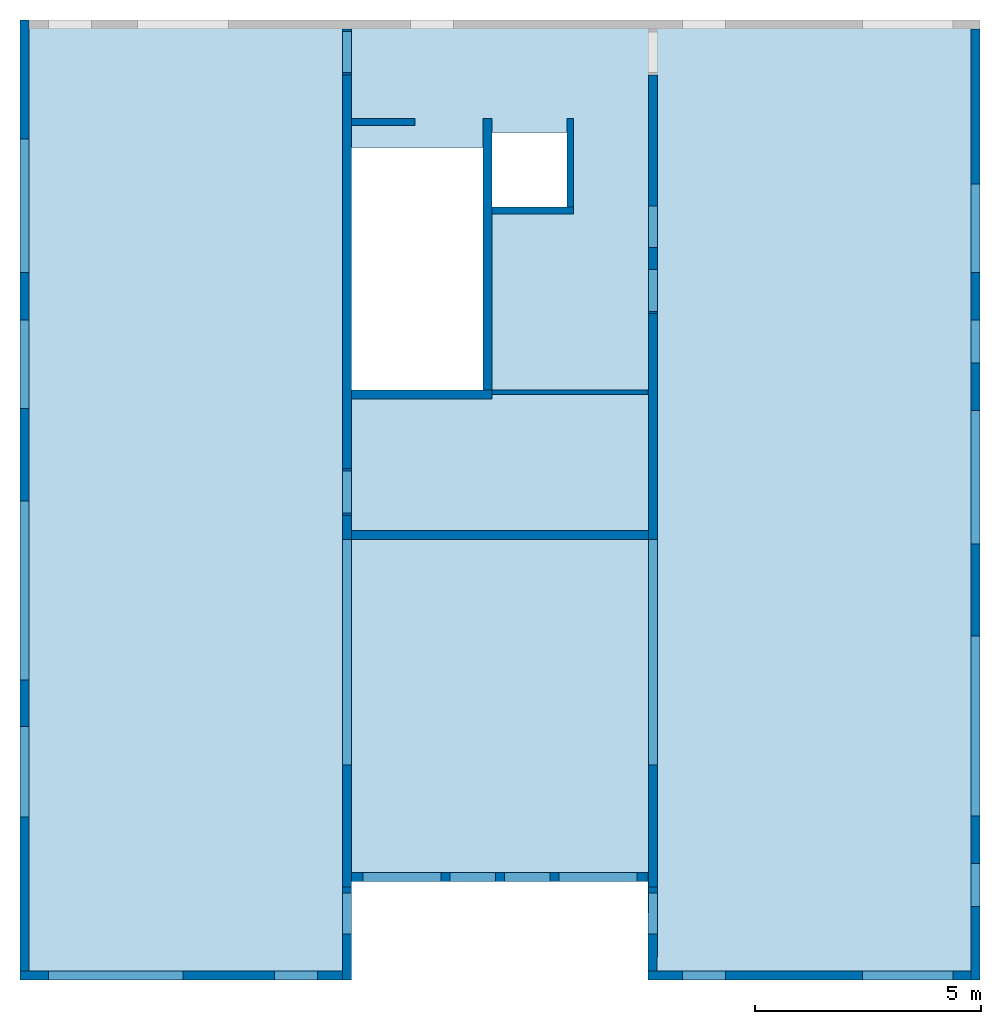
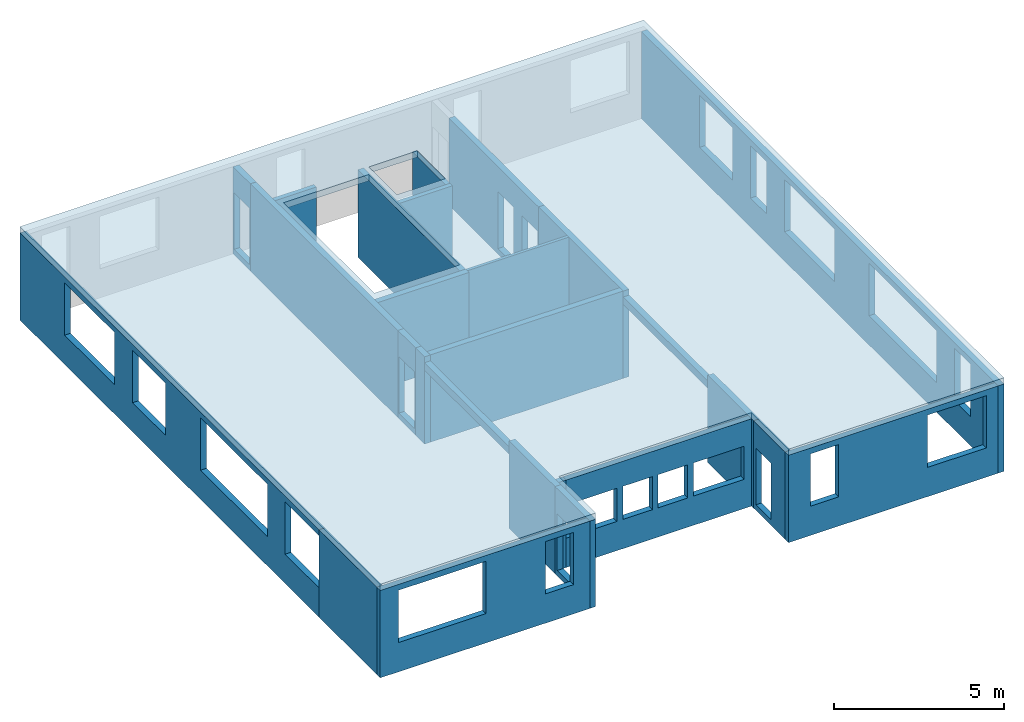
# One storey, part 1 of 2: 24 walls, 2 beams, 1 slab, 27 openings.
"""IFC2X3 building model written with IfcOpenShell, lengths in millimetres."""

from ifc_helpers import new_model, entity, si_unit, converted_unit, frame, frame_2d, origin, origin_with_axes, place, context, subcontext, project, spatial, polyline, rectangle, outline, extrude, faceted_brep, material, layer, layer_set, layer_usage, element, save


model = new_model("IFC2X3")

# Units and contexts
model_context = context("Model", 3, precision=1e-05, world=origin())
body_context = subcontext(model_context, "Body", "Model", "MODEL_VIEW")
ifc_project = project(units=[si_unit("LENGTHUNIT", "METRE", prefix="MILLI"), converted_unit("PLANEANGLEUNIT", "DEGREE", entity("IfcPlaneAngleMeasure", 0.0174532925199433), si_unit("PLANEANGLEUNIT", "RADIAN"), dimensions=[0, 0, 0, 0, 0, 0, 0]), si_unit("AREAUNIT", "SQUARE_METRE"), si_unit("VOLUMEUNIT", "CUBIC_METRE")], contexts=[model_context])

# Building, storey
building_placement = place(None, origin())
building = spatial("IfcBuilding", under=ifc_project, at=building_placement, Name="Bâtiment", CompositionType="ELEMENT")
storey_placement = place(building_placement, frame((0.0, 0.0, 11610.0), z_axis=(0.0, 0.0, 1.0), x_axis=(1.0, 0.0, 0.0)))
storey = spatial("IfcBuildingStorey", under=building, at=storey_placement, Name="3. Etage supérieur", CompositionType="ELEMENT", Elevation=11610.0)

# Beams
ifc_material_1 = material(Name="<Unnamed Material>")
beam_1_placement = place(storey_placement, frame((11832.25934853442, -27162.95646336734, 2460.0), z_axis=(0.0, 0.0, 1.0), x_axis=(0.0001049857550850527, 0.9999999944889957, 0.0)))
element("IfcBeam", 1, at=beam_1_placement, inside=storey, material=ifc_material_1, Name="<Unnamed Element>", context=body_context, shape_type="SweptSolid", body=[
    extrude(rectangle(XDim=270.0, YDim=200.0, at=frame_2d((135.0, -100.0), x_axis=(1.0, 0.0))), frame((0.0, 0.0, 0.0), z_axis=(1.0, 0.0, 0.0), x_axis=(0.0, 0.0, 1.0)), (0.0, 0.0, 1.0), 4978.489400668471),
])
ifc_material_2 = material(Name="<Unnamed Material>")
beam_2_placement = place(storey_placement, frame((5083.145609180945, -27162.95646336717, 2460.0), z_axis=(0.0, 0.0, 1.0), x_axis=(-0.0001049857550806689, 0.9999999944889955, 0.0)))
element("IfcBeam", 2, at=beam_2_placement, inside=storey, material=ifc_material_2, Name="<Unnamed Element>", context=body_context, shape_type="SweptSolid", body=[
    extrude(rectangle(XDim=270.0, YDim=199.9999999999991, at=frame_2d((135.0, -99.99999999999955), x_axis=(1.0, 0.0))), frame((0.0, 0.0, 0.0), z_axis=(1.0, 0.0, 0.0), x_axis=(0.0, 0.0, 1.0)), (0.0, 0.0, 1.0), 4978.489400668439),
])

# Slab, openings
ifc_material_3 = material(Name="<Unnamed Material>")
ifc_layer_1 = layer(ifc_material_3, 230.0)
ifc_layer_set_1 = layer_set([ifc_layer_1])
ifc_layer_usage_1 = layer_usage(ifc_layer_set_1, "AXIS3", "POSITIVE", 0.0)
slab_placement = place(storey_placement, frame((-2242.186712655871, -10713.57313399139, 2930.0), z_axis=(0.0, 0.0, 1.0), x_axis=(1.0, 0.0, 0.0)))
slab = element("IfcSlab", 3, at=slab_placement, inside=storey, material=ifc_layer_usage_1, Name="<Unnamed Element>", PredefinedType="FLOOR", context=body_context, shape_type="SweptSolid", body=[
    extrude(rectangle(XDim=21199.7794596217, YDim=21199.78053621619, at=frame_2d((10599.89026810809, -10599.88972981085), x_axis=(0.0, -0.9999999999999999))), origin_with_axes(), (0.0, 0.0, 1.0), 230.0),
])
opening_1_placement = place(slab_placement, frame((7324.370955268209, -8168.914292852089, 0.0), z_axis=(0.0, 0.0, 1.0), x_axis=(1.0, 0.0, 0.0)))
element("IfcOpeningElement", 4, at=opening_1_placement, cuts=slab, Name="Trémie dans dalle", ObjectType="Opening", context=body_context, shape_type="SweptSolid", body=[
    extrude(rectangle(XDim=2900.0, YDim=5350.0, at=frame_2d((1450.0, 2675.0), x_axis=(0.9999999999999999, 0.0))), origin_with_axes(), (0.0, 0.0, 1.0), 230.0),
])
opening_2_placement = place(slab_placement, frame((10423.20173598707, -2481.977777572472, 0.0), z_axis=(0.0, 0.0, 1.0), x_axis=(1.0, 0.0, 0.0)))
element("IfcOpeningElement", 5, at=opening_2_placement, cuts=slab, Name="Trémie dans dalle", ObjectType="Opening", context=body_context, shape_type="SweptSolid", body=[
    extrude(rectangle(XDim=1646.106911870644, YDim=1651.041602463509, at=frame_2d((825.5208012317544, -823.0534559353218), x_axis=(0.0, -1.0))), origin_with_axes(), (0.0, 0.0, 1.0), 230.0),
])
opening_3_placement = place(slab_placement, frame((7324.327891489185, -19029.63685337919, 0.0), z_axis=(0.0, 0.0, 1.0), x_axis=(1.0, 0.0, 0.0)))
element("IfcOpeningElement", 6, at=opening_3_placement, cuts=slab, Name="Trémie dans dalle", ObjectType="Opening", context=body_context, shape_type="SweptSolid", body=[
    extrude(rectangle(XDim=2170.142606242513, YDim=6547.479330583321, at=frame_2d((3273.739665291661, -1085.071303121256), x_axis=(0.0, -1.0))), origin_with_axes(), (0.0, 0.0, 1.0), 230.0),
])

# Wall, openings
ifc_material_4 = material(Name="<Unnamed Material>")
ifc_layer_2 = layer(ifc_material_4, 200.0)
ifc_layer_set_2 = layer_set([ifc_layer_2])
ifc_layer_usage_2 = layer_usage(ifc_layer_set_2, "AXIS2", "POSITIVE", -100.0)
wall_1_placement = place(storey_placement, frame((4882.1411788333, -31713.35259361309, -200.0), z_axis=(0.0, 0.0, 1.0), x_axis=(-1.0, 0.0, 0.0)))
wall_1 = element("IfcWallStandardCase", 7, at=wall_1_placement, inside=storey, material=ifc_layer_usage_2, Name="<Unnamed Element>", context=body_context, shape_type="SweptSolid", body=[
    extrude(rectangle(XDim=7124.327891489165, YDim=200.0, at=frame_2d((3562.163945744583, 100.0), x_axis=(1.0, 0.0))), origin_with_axes(), (0.0, 0.0, 1.0), 3139.999999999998),
])
opening_4_placement = place(wall_1_placement, frame((549.7445833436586, 0.0, 1050.0), z_axis=(0.0, 1.0, 0.0), x_axis=(0.0, 0.0, 1.0)))
element("IfcOpeningElement", 8, at=opening_4_placement, cuts=wall_1, Name="Baie de fenêtre", ObjectType="Opening", context=body_context, shape_type="SweptSolid", body=[
    extrude(rectangle(XDim=1880.0, YDim=950.0000000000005, at=frame_2d((940.0, 475.0000000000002), x_axis=(1.0, 0.0))), origin_with_axes(), (0.0, 0.0, 1.0), 200.0),
])
opening_5_placement = place(wall_1_placement, frame((3525.436756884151, 0.0, 1050.0), z_axis=(0.0, 1.0, 0.0), x_axis=(0.0, 0.0, 1.0)))
element("IfcOpeningElement", 9, at=opening_5_placement, cuts=wall_1, Name="Baie de fenêtre", ObjectType="Opening", context=body_context, shape_type="SweptSolid", body=[
    extrude(rectangle(XDim=1880.0, YDim=2975.0, at=frame_2d((940.0, 1487.5), x_axis=(1.0, 0.0))), origin_with_axes(), (0.0, 0.0, 1.0), 200.0),
])

# Wall, opening
ifc_material_5 = material(Name="<Unnamed Material>")
ifc_layer_3 = layer(ifc_material_5, 200.0)
ifc_layer_set_3 = layer_set([ifc_layer_3])
ifc_layer_usage_3 = layer_usage(ifc_layer_set_3, "AXIS2", "POSITIVE", -200.0)
wall_2_placement = place(storey_placement, frame((4882.141178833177, -29863.87900255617, -200.0), z_axis=(0.0, 0.0, 1.0), x_axis=(6.656548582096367e-14, -1.0, 0.0)))
wall_2 = element("IfcWallStandardCase", 10, at=wall_2_placement, inside=storey, material=ifc_layer_usage_3, Name="<Unnamed Element>", context=body_context, shape_type="SweptSolid", body=[
    extrude(rectangle(XDim=2049.473591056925, YDim=200.0, at=frame_2d((1024.736795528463, 100.0), x_axis=(1.0, 0.0))), origin_with_axes(), (0.0, 0.0, 1.0), 3139.999999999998),
])
opening_6_placement = place(wall_2_placement, frame((128.6892510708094, -3.586277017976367e-13, 200.0), z_axis=(0.0, 1.0, 0.0), x_axis=(0.0, 0.0, 1.0)))
element("IfcOpeningElement", 11, at=opening_6_placement, cuts=wall_2, Name="Porte-fenêtre", ObjectType="Opening", context=body_context, shape_type="SweptSolid", body=[
    extrude(rectangle(XDim=2040.0, YDim=900.0, at=frame_2d((1020.0, 450.0), x_axis=(1.0, 0.0))), origin_with_axes(), (0.0, 0.0, 1.0), 200.0),
])

# Wall
ifc_material_6 = material(Name="<Unnamed Material>")
ifc_layer_4 = layer(ifc_material_6, 200.0)
ifc_layer_set_4 = layer_set([ifc_layer_4])
ifc_layer_usage_4 = layer_usage(ifc_layer_set_4, "AXIS2", "POSITIVE", 0.0)
wall_3_placement = place(storey_placement, frame((4883.145609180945, -27162.95646336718, -200.0), z_axis=(0.0, 0.0, 1.0), x_axis=(4.579593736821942e-14, -0.9999999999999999, 0.0)))
element("IfcWallStandardCase", 12, at=wall_3_placement, inside=storey, material=ifc_layer_usage_4, Name="<Unnamed Element>", context=body_context, shape_type="SweptSolid", body=[
    extrude(outline(polyline([(0.0, 0.0), (2700.922539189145, -2.584939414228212e-26), (2700.922539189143, 200.0), (2580.25352400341, 200.0), (2580.25352400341, 198.9955696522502), (2380.25352400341, 198.9955696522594), (2380.25352400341, 200.0000000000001), (-1.754748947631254e-12, 200.0), (0.0, 0.0)])), origin_with_axes(), (0.0, 0.0, 1.0), 3139.999999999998),
])

# Wall, openings
ifc_material_7 = material(Name="<Unnamed Material>")
ifc_layer_5 = layer(ifc_material_7, 200.0)
ifc_layer_set_5 = layer_set([ifc_layer_5])
ifc_layer_usage_5 = layer_usage(ifc_layer_set_5, "AXIS2", "POSITIVE", 0.0)
wall_4_placement = place(storey_placement, frame((5331.908943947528, -29743.20998737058, -200.0), z_axis=(0.0, 0.0, 1.0), x_axis=(0.9999999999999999, 5.775220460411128e-16, 0.0)))
wall_4 = element("IfcWallStandardCase", 13, at=wall_4_placement, inside=storey, material=ifc_layer_usage_5, Name="<Unnamed Element>", context=body_context, shape_type="SweptSolid", body=[
    extrude(rectangle(XDim=6299.289926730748, YDim=200.0, at=frame_2d((3149.644963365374, 99.99999999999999), x_axis=(1.0, 0.0))), origin_with_axes(), (0.0, 0.0, 1.0), 3139.999999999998),
])
opening_7_placement = place(wall_4_placement, frame((0.07469816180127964, 0.0, 1050.0), z_axis=(0.0, 1.0, 0.0), x_axis=(0.0, 0.0, 1.0)))
element("IfcOpeningElement", 14, at=opening_7_placement, cuts=wall_4, Name="Baie de fenêtre", ObjectType="Opening", context=body_context, shape_type="SweptSolid", body=[
    extrude(rectangle(XDim=1190.0, YDim=1725.0, at=frame_2d((595.0, 862.5), x_axis=(1.0, 0.0))), origin_with_axes(), (0.0, 0.0, 1.0), 200.0),
])
opening_8_placement = place(wall_4_placement, frame((1926.173933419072, 0.0, 1050.0), z_axis=(0.0, 1.0, 0.0), x_axis=(0.0, 0.0, 1.0)))
element("IfcOpeningElement", 15, at=opening_8_placement, cuts=wall_4, Name="Baie de fenêtre", ObjectType="Opening", context=body_context, shape_type="SweptSolid", body=[
    extrude(rectangle(XDim=1190.0, YDim=1000.0, at=frame_2d((595.0, 500.0), x_axis=(1.0, 0.0))), origin_with_axes(), (0.0, 0.0, 1.0), 200.0),
])
opening_9_placement = place(wall_4_placement, frame((3126.346382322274, 0.0, 1050.0), z_axis=(0.0, 1.0, 0.0), x_axis=(0.0, 0.0, 1.0)))
element("IfcOpeningElement", 16, at=opening_9_placement, cuts=wall_4, Name="Baie de fenêtre", ObjectType="Opening", context=body_context, shape_type="SweptSolid", body=[
    extrude(rectangle(XDim=1190.0, YDim=1000.0, at=frame_2d((595.0, 500.0), x_axis=(1.0, 0.0))), origin_with_axes(), (0.0, 0.0, 1.0), 200.0),
])
opening_10_placement = place(wall_4_placement, frame((4324.501437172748, 3.637978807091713e-12, 1050.0), z_axis=(0.0, 1.0, 0.0), x_axis=(0.0, 0.0, 1.0)))
element("IfcOpeningElement", 17, at=opening_10_placement, cuts=wall_4, Name="Baie de fenêtre", ObjectType="Opening", context=body_context, shape_type="SweptSolid", body=[
    extrude(rectangle(XDim=1190.0, YDim=1725.0, at=frame_2d((595.0, 862.5), x_axis=(1.0, 0.0))), origin_with_axes(), (0.0, 0.0, 1.0), 200.0),
])

# Walls
ifc_material_8 = material(Name="<Unnamed Material>")
ifc_layer_6 = layer(ifc_material_8, 200.0)
ifc_layer_set_6 = layer_set([ifc_layer_6])
ifc_layer_usage_6 = layer_usage(ifc_layer_set_6, "AXIS2", "POSITIVE", 0.0)
wall_5_placement = place(storey_placement, frame((5082.141178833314, -29743.20998737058, -200.0), z_axis=(0.0, 0.0, 1.0), x_axis=(0.9999999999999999, 0.0, 0.0)))
element("IfcWallStandardCase", 18, at=wall_5_placement, inside=storey, material=ifc_layer_usage_6, Name="<Unnamed Element>", context=body_context, shape_type="SweptSolid", body=[
    extrude(rectangle(XDim=249.7677651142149, YDim=200.0, at=frame_2d((124.8838825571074, 99.99999999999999), x_axis=(1.0, 0.0))), origin_with_axes(), (0.0, 0.0, 1.0), 3139.999999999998),
])
ifc_material_9 = material(Name="<Unnamed Material>")
ifc_layer_7 = layer(ifc_material_9, 200.0)
ifc_layer_set_7 = layer_set([ifc_layer_7])
ifc_layer_usage_7 = layer_usage(ifc_layer_set_7, "AXIS2", "POSITIVE", 0.0)
wall_6_placement = place(storey_placement, frame((11832.25934853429, -29863.87900255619, -200.0), z_axis=(0.0, 0.0, 1.0), x_axis=(4.781634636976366e-14, 0.9999999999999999, 0.0)))
element("IfcWallStandardCase", 19, at=wall_6_placement, inside=storey, material=ifc_layer_usage_7, Name="<Unnamed Element>", context=body_context, shape_type="SweptSolid", body=[
    extrude(outline(polyline([(0.0, 0.0), (2700.922539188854, 0.0), (2700.922539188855, 200.0), (0.12874878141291, 200.0), (0.2574974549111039, 199.9998342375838), (0.0, 0.0)])), origin_with_axes(), (0.0, 0.0, 1.0), 3139.999999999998),
])

# Wall, opening
ifc_material_10 = material(Name="<Unnamed Material>")
ifc_layer_8 = layer(ifc_material_10, 200.0000000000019)
ifc_layer_set_8 = layer_set([ifc_layer_8])
ifc_layer_usage_8 = layer_usage(ifc_layer_set_8, "AXIS2", "POSITIVE", -200.0)
wall_7_placement = place(storey_placement, frame((11632.25951429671, -29863.62150510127, -200.0), z_axis=(0.0, 0.0, 1.0), x_axis=(-0.001287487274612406, -0.9999991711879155, 0.0)))
wall_7 = element("IfcWallStandardCase", 20, at=wall_7_placement, inside=storey, material=ifc_layer_usage_8, Name="<Unnamed Element>", context=body_context, shape_type="SweptSolid", body=[
    extrude(outline(polyline([(0.0, 0.0), (1849.732621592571, 0.0), (1849.475123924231, 200.0000000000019), (-1.814937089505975e-12, 200.0000000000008), (0.0, 0.0)])), origin_with_axes(), (0.0, 0.0, 1.0), 3139.999999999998),
])
opening_11_placement = place(wall_7_placement, frame((128.6901036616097, 5.17058618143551e-13, 200.0), z_axis=(0.0, 1.0, 0.0), x_axis=(0.0, 0.0, 1.0)))
element("IfcOpeningElement", 21, at=opening_11_placement, cuts=wall_7, Name="Porte-fenêtre", ObjectType="Opening", context=body_context, shape_type="SweptSolid", body=[
    extrude(rectangle(XDim=2040.0, YDim=900.0, at=frame_2d((1020.0, 450.0), x_axis=(1.0, 0.0))), origin_with_axes(), (0.0, 0.0, 1.0), 200.0000000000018),
])

# Wall, openings
ifc_material_11 = material(Name="<Unnamed Material>")
ifc_layer_9 = layer(ifc_material_11, 200.0)
ifc_layer_set_9 = layer_set([ifc_layer_9])
ifc_layer_usage_9 = layer_usage(ifc_layer_set_9, "AXIS2", "POSITIVE", -100.0)
wall_8_placement = place(storey_placement, frame((18757.59382356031, -31713.35259361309, -200.0), z_axis=(0.0, 0.0, 1.0), x_axis=(-1.0, 0.0, 0.0)))
wall_8 = element("IfcWallStandardCase", 22, at=wall_8_placement, inside=storey, material=ifc_layer_usage_9, Name="<Unnamed Element>", context=body_context, shape_type="SweptSolid", body=[
    extrude(outline(polyline([(0.0, 0.0), (7127.715816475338, 0.0), (7127.973314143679, 200.0), (0.0, 200.0), (0.0, 0.0)])), origin_with_axes(), (0.0, 0.0, 1.0), 3139.999999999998),
])
opening_12_placement = place(wall_8_placement, frame((5424.985838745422, 0.0, 1050.0), z_axis=(0.0, 1.0, 0.0), x_axis=(0.0, 0.0, 1.0)))
element("IfcOpeningElement", 23, at=opening_12_placement, cuts=wall_8, Name="Baie de fenêtre", ObjectType="Opening", context=body_context, shape_type="SweptSolid", body=[
    extrude(rectangle(XDim=1880.0, YDim=950.0, at=frame_2d((940.0, 475.0), x_axis=(1.0, 0.0))), origin_with_axes(), (0.0, 0.0, 1.0), 200.0),
])
opening_13_placement = place(wall_8_placement, frame((399.8222273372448, 0.0, 1050.0), z_axis=(0.0, 1.0, 0.0), x_axis=(0.0, 0.0, 1.0)))
element("IfcOpeningElement", 24, at=opening_13_placement, cuts=wall_8, Name="Baie de fenêtre", ObjectType="Opening", context=body_context, shape_type="SweptSolid", body=[
    extrude(rectangle(XDim=1880.0, YDim=2000.0, at=frame_2d((940.0, 1000.0), x_axis=(1.0, 0.0))), origin_with_axes(), (0.0, 0.0, 1.0), 200.0),
])
opening_14_placement = place(wall_8_placement, frame((399.8222273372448, 0.0, 1050.0), z_axis=(0.0, 1.0, 0.0), x_axis=(0.0, 0.0, 1.0)))
element("IfcOpeningElement", 25, at=opening_14_placement, cuts=wall_8, Name="Baie de fenêtre", ObjectType="Opening", context=body_context, shape_type="SweptSolid", body=[
    extrude(rectangle(XDim=1880.0, YDim=2000.0, at=frame_2d((940.0, 1000.0), x_axis=(1.0, 0.0))), origin_with_axes(), (0.0, 0.0, 1.0), 200.0),
])

ifc_material_12 = material(Name="<Unnamed Material>")
ifc_layer_10 = layer(ifc_material_12, 200.0)
ifc_layer_set_10 = layer_set([ifc_layer_10])
ifc_layer_usage_10 = layer_usage(ifc_layer_set_10, "AXIS2", "POSITIVE", -100.0)
wall_9_placement = place(storey_placement, frame((18757.59382356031, -10913.57313399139, -200.0), z_axis=(0.0, 0.0, 1.0), x_axis=(3.464778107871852e-16, -1.0, 0.0)))
wall_9 = element("IfcWallStandardCase", 26, at=wall_9_placement, inside=storey, material=ifc_layer_usage_10, Name="<Unnamed Element>", context=body_context, shape_type="SweptSolid", body=[
    extrude(rectangle(XDim=20999.7794596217, YDim=200.0, at=frame_2d((10499.88972981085, 100.0), x_axis=(1.0, 0.0))), origin_with_axes(), (0.0, 0.0, 1.0), 3139.999999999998),
])
opening_15_placement = place(wall_9_placement, frame((6424.054746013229, 3.637978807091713e-12, 1050.0), z_axis=(0.0, 1.0, 0.0), x_axis=(0.0, 0.0, 1.0)))
element("IfcOpeningElement", 27, at=opening_15_placement, cuts=wall_9, Name="Baie de fenêtre", ObjectType="Opening", context=body_context, shape_type="SweptSolid", body=[
    extrude(rectangle(XDim=1880.0, YDim=950.0, at=frame_2d((940.0, 475.0), x_axis=(1.0, 0.0))), origin_with_axes(), (0.0, 0.0, 1.0), 200.0),
])
opening_16_placement = place(wall_9_placement, frame((18425.36593849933, 7.275957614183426e-12, 1050.0), z_axis=(0.0, 1.0, 0.0), x_axis=(0.0, 0.0, 1.0)))
element("IfcOpeningElement", 28, at=opening_16_placement, cuts=wall_9, Name="Baie de fenêtre", ObjectType="Opening", context=body_context, shape_type="SweptSolid", body=[
    extrude(rectangle(XDim=1880.0, YDim=950.0, at=frame_2d((940.0, 475.0), x_axis=(1.0, 0.0))), origin_with_axes(), (0.0, 0.0, 1.0), 200.0),
])
opening_17_placement = place(wall_9_placement, frame((8423.936759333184, 3.637978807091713e-12, 1050.0), z_axis=(0.0, 1.0, 0.0), x_axis=(0.0, 0.0, 1.0)))
element("IfcOpeningElement", 29, at=opening_17_placement, cuts=wall_9, Name="Baie de fenêtre", ObjectType="Opening", context=body_context, shape_type="SweptSolid", body=[
    extrude(rectangle(XDim=1880.0, YDim=2950.0, at=frame_2d((940.0, 1475.0), x_axis=(1.0, 0.0))), origin_with_axes(), (0.0, 0.0, 1.0), 200.0),
])
opening_18_placement = place(wall_9_placement, frame((3424.296611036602, 0.0, 1050.0), z_axis=(0.0, 1.0, 0.0), x_axis=(0.0, 0.0, 1.0)))
element("IfcOpeningElement", 30, at=opening_18_placement, cuts=wall_9, Name="Baie de fenêtre", ObjectType="Opening", context=body_context, shape_type="SweptSolid", body=[
    extrude(rectangle(XDim=1880.0, YDim=1950.0, at=frame_2d((940.0, 975.0), x_axis=(1.0, 0.0))), origin_with_axes(), (0.0, 0.0, 1.0), 200.0),
])
opening_19_placement = place(wall_9_placement, frame((13400.31816058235, 3.637978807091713e-12, 1050.0), z_axis=(0.0, 1.0, 0.0), x_axis=(0.0, 0.0, 1.0)))
element("IfcOpeningElement", 31, at=opening_19_placement, cuts=wall_9, Name="Baie de fenêtre", ObjectType="Opening", context=body_context, shape_type="SweptSolid", body=[
    extrude(rectangle(XDim=1880.0, YDim=3975.0, at=frame_2d((940.0, 1987.5), x_axis=(1.0, 0.0))), origin_with_axes(), (0.0, 0.0, 1.0), 200.0),
])

ifc_material_13 = material(Name="<Unnamed Material>")
ifc_layer_11 = layer(ifc_material_13, 200.0)
ifc_layer_set_11 = layer_set([ifc_layer_11])
ifc_layer_usage_11 = layer_usage(ifc_layer_set_11, "AXIS2", "POSITIVE", -100.0)
wall_10_placement = place(storey_placement, frame((-2042.186712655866, -28312.31580621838, -200.0), z_axis=(0.0, 0.0, 1.0), x_axis=(-2.842373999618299e-16, 1.0, 0.0)))
wall_10 = element("IfcWallStandardCase", 32, at=wall_10_placement, inside=storey, material=ifc_layer_usage_11, Name="<Unnamed Element>", context=body_context, shape_type="SweptSolid", body=[
    extrude(rectangle(XDim=17598.74267222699, YDim=200.0, at=frame_2d((8799.371336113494, 100.0), x_axis=(1.0, 0.0))), origin_with_axes(), (0.0, 0.0, 1.0), 3139.999999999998),
])
opening_20_placement = place(wall_10_placement, frame((12024.97462332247, 6.76442454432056e-13, 1050.0), z_axis=(0.0, 1.0, 0.0), x_axis=(0.0, 0.0, 1.0)))
element("IfcOpeningElement", 33, at=opening_20_placement, cuts=wall_10, Name="Baie de fenêtre", ObjectType="Opening", context=body_context, shape_type="SweptSolid", body=[
    extrude(rectangle(XDim=1880.0, YDim=2950.0, at=frame_2d((940.0, 1475.0), x_axis=(1.0, 0.0))), origin_with_axes(), (0.0, 0.0, 1.0), 200.0000000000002),
])
opening_21_placement = place(wall_10_placement, frame((9021.364317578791, 4.498896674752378e-13, 1050.0), z_axis=(0.0, 1.0, 0.0), x_axis=(0.0, 0.0, 1.0)))
element("IfcOpeningElement", 34, at=opening_21_placement, cuts=wall_10, Name="Baie de fenêtre", ObjectType="Opening", context=body_context, shape_type="SweptSolid", body=[
    extrude(rectangle(XDim=1880.0, YDim=1950.0, at=frame_2d((940.0, 975.0), x_axis=(1.0, 0.0))), origin_with_axes(), (0.0, 0.0, 1.0), 200.0),
])
opening_22_placement = place(wall_10_placement, frame((3022.413396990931, 2.222774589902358e-13, 1050.0), z_axis=(0.0, 1.0, 0.0), x_axis=(0.0, 0.0, 1.0)))
element("IfcOpeningElement", 35, at=opening_22_placement, cuts=wall_10, Name="Baie de fenêtre", ObjectType="Opening", context=body_context, shape_type="SweptSolid", body=[
    extrude(rectangle(XDim=1880.0, YDim=3950.0, at=frame_2d((940.0, 1975.0), x_axis=(1.0, 0.0))), origin_with_axes(), (0.0, 0.0, 1.0), 200.0),
])
opening_23_placement = place(wall_10_placement, frame((0.0, 0.0, 1050.0), z_axis=(0.0, 1.0, 0.0), x_axis=(0.0, 0.0, 1.0)))
element("IfcOpeningElement", 36, at=opening_23_placement, cuts=wall_10, Name="Baie de fenêtre", ObjectType="Opening", context=body_context, shape_type="Brep", body=[
    faceted_brep([(0.0, 0.0, 200.0000000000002), (0.0, 0.0, 0.0), (0.0, 1998.1388911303, 0.0), (0.0, 1998.1388911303, 199.9999999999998), (1880.0, 0.0, 0.0), (1880.0, 0.0, 200.0000000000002), (1880.0, 1998.1388911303, 199.9999999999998), (1880.0, 1998.1388911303, 0.0), (0.0, 0.0, 0.0), (0.0, 0.0, 200.0000000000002), (1880.0, 0.0, 200.0000000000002), (1880.0, 0.0, 0.0), (0.0, 1998.1388911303, 0.0), (0.0, 0.0, 0.0), (1880.0, 0.0, 0.0), (1880.0, 1998.1388911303, 0.0), (0.0, 1998.1388911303, 199.9999999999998), (0.0, 1998.1388911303, 0.0), (1880.0, 1998.1388911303, 0.0), (1880.0, 1998.1388911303, 199.9999999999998), (0.0, 0.0, 200.0000000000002), (0.0, 1998.1388911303, 199.9999999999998), (1880.0, 1998.1388911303, 199.9999999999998), (1880.0, 0.0, 200.0000000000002)], [[[0, 1, 2, 3]], [[4, 5, 6, 7]], [[8, 9, 10, 11]], [[12, 13, 14, 15]], [[16, 17, 18, 19]], [[20, 21, 22, 23]]], orient=[[False], [False], [False], [False], [False], [False]]),
])

# Walls
ifc_material_14 = material(Name="<Unnamed Material>")
ifc_layer_12 = layer(ifc_material_14, 200.0)
ifc_layer_set_12 = layer_set([ifc_layer_12])
ifc_layer_usage_12 = layer_usage(ifc_layer_set_12, "AXIS2", "POSITIVE", -100.0)
wall_11_placement = place(storey_placement, frame((-2042.186712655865, -31713.35259361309, -200.0), z_axis=(0.0, 0.0, 1.0), x_axis=(-2.674168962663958e-16, 1.0, 0.0)))
element("IfcWallStandardCase", 37, at=wall_11_placement, inside=storey, material=ifc_layer_usage_12, Name="<Unnamed Element>", context=body_context, shape_type="SweptSolid", body=[
    extrude(rectangle(XDim=3401.036787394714, YDim=200.0, at=frame_2d((1700.518393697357, 100.0), x_axis=(1.0, 0.0))), origin_with_axes(), (0.0, 0.0, 1.0), 3139.999999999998),
])
ifc_material_15 = material(Name="<Unnamed Material>")
ifc_layer_13 = layer(ifc_material_15, 200.0)
ifc_layer_set_13 = layer_set([ifc_layer_13])
ifc_layer_usage_13 = layer_usage(ifc_layer_set_13, "AXIS2", "POSITIVE", 0.0)
wall_12_placement = place(storey_placement, frame((5083.294107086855, -22184.46709013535, -200.0), z_axis=(0.0, 0.0, 1.0), x_axis=(1.0, 5.554600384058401e-16, 0.0)))
element("IfcWallStandardCase", 38, at=wall_12_placement, inside=storey, material=ifc_layer_usage_13, Name="<Unnamed Element>", context=body_context, shape_type="SweptSolid", body=[
    extrude(rectangle(XDim=6549.48791191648, YDim=200.0, at=frame_2d((3274.74395595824, 100.0), x_axis=(1.0, 0.0))), origin_with_axes(), (0.0, 0.0, 1.0), 3139.999999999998),
])
ifc_material_16 = material(Name="<Unnamed Material>")
ifc_layer_14 = layer(ifc_material_16, 200.0)
ifc_layer_set_14 = layer_set([ifc_layer_14])
ifc_layer_usage_14 = layer_usage(ifc_layer_set_14, "AXIS2", "POSITIVE", -100.0)
wall_13_placement = place(storey_placement, frame((4882.62293871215, -11933.31105644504, -200.0), z_axis=(0.0, 0.0, 1.0), x_axis=(3.140914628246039e-16, -1.0, 0.0)))
element("IfcWallStandardCase", 39, at=wall_13_placement, inside=storey, material=ifc_layer_usage_14, Name="<Unnamed Element>", context=body_context, shape_type="SweptSolid", body=[
    extrude(outline(polyline([(0.0, 0.0), (8686.909477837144, 0.0), (8686.909477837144, 200.0), (7152.32309978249, 199.9999999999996), (7152.32309978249, 199.5182401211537), (6952.32309978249, 199.5182401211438), (6952.32309978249, 199.9999999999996), (6.281829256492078e-14, 200.0), (0.0, 0.0)])), origin_with_axes(), (0.0, 0.0, 1.0), 3139.999999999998),
])
ifc_material_17 = material(Name="<Unnamed Material>")
ifc_layer_15 = layer(ifc_material_17, 200.0)
ifc_layer_set_15 = layer_set([ifc_layer_15])
ifc_layer_usage_15 = layer_usage(ifc_layer_set_15, "AXIS2", "POSITIVE", -100.0)
wall_14_placement = place(storey_placement, frame((4882.622938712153, -21651.10432615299, -200.0), z_axis=(0.0, 0.0, 1.0), x_axis=(-1.841625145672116e-13, -1.0, 0.0)))
element("IfcWallStandardCase", 40, at=wall_14_placement, inside=storey, material=ifc_layer_usage_15, Name="<Unnamed Element>", context=body_context, shape_type="SweptSolid", body=[
    extrude(outline(polyline([(0.0, 0.0), (533.3627639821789, 0.0), (533.3627639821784, 200.0), (-0.04673482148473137, 200.0), (0.0467348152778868, 2.184143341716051e-05), (0.0, 0.0)])), origin_with_axes(), (0.0, 0.0, 1.0), 3139.999999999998),
])
ifc_material_18 = material(Name="<Unnamed Material>")
ifc_layer_16 = layer(ifc_material_18, 200.0)
ifc_layer_set_16 = layer_set([ifc_layer_16])
ifc_layer_usage_16 = layer_usage(ifc_layer_set_16, "AXIS2", "POSITIVE", -100.0)
wall_15_placement = place(storey_placement, frame((11632.78201900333, -17195.40125277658, -200.0), z_axis=(0.0, 0.0, 1.0), x_axis=(3.64595189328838e-16, -1.0, 0.0)))
element("IfcWallStandardCase", 41, at=wall_15_placement, inside=storey, material=ifc_layer_usage_16, Name="<Unnamed Element>", context=body_context, shape_type="SweptSolid", body=[
    extrude(rectangle(XDim=4989.065837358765, YDim=200.0, at=frame_2d((2494.532918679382, 100.0), x_axis=(1.0, 0.0))), origin_with_axes(), (0.0, 0.0, 1.0), 3139.999999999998),
])
ifc_material_19 = material(Name="<Unnamed Material>")
ifc_layer_17 = layer(ifc_material_19, 200.0)
ifc_layer_set_17 = layer_set([ifc_layer_17])
ifc_layer_usage_17 = layer_usage(ifc_layer_set_17, "AXIS2", "POSITIVE", 0.0)
wall_16_placement = place(storey_placement, frame((5082.141178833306, -19085.63415622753, -200.0), z_axis=(0.0, 0.0, 1.0), x_axis=(1.0, 4.810060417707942e-14, 0.0)))
element("IfcWallStandardCase", 42, at=wall_16_placement, inside=storey, material=ifc_layer_usage_17, Name="<Unnamed Element>", context=body_context, shape_type="SweptSolid", body=[
    extrude(rectangle(XDim=3100.940905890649, YDim=200.0, at=frame_2d((1550.470452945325, 100.0), x_axis=(1.0, 0.0))), origin_with_axes(), (0.0, 0.0, 1.0), 3139.999999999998),
])
ifc_material_20 = material(Name="<Unnamed Material>")
ifc_layer_18 = layer(ifc_material_20, 101.0)
ifc_layer_set_18 = layer_set([ifc_layer_18])
ifc_layer_usage_18 = layer_usage(ifc_layer_set_18, "AXIS2", "POSITIVE", -101.0)
wall_17_placement = place(storey_placement, frame((11631.19887067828, -18885.15682669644, -200.0), z_axis=(0.0, 0.0, 1.0), x_axis=(-1.0, 4.220250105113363e-14, 0.0)))
element("IfcWallStandardCase", 43, at=wall_17_placement, inside=storey, material=ifc_layer_usage_18, Name="<Unnamed Element>", context=body_context, shape_type="SweptSolid", body=[
    extrude(rectangle(XDim=3448.116785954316, YDim=101.0, at=frame_2d((1724.058392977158, 50.5), x_axis=(1.0, 0.0))), origin_with_axes(), (0.0, 0.0, 1.0), 3139.999999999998),
])
ifc_material_21 = material(Name="<Unnamed Material>")
ifc_layer_19 = layer(ifc_material_21, 200.0)
ifc_layer_set_19 = layer_set([ifc_layer_19])
ifc_layer_usage_19 = layer_usage(ifc_layer_set_19, "AXIS2", "POSITIVE", 0.0)
wall_18_placement = place(storey_placement, frame((8183.082084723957, -18885.63415622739, -200.0), z_axis=(0.0, 0.0, 1.0), x_axis=(4.704159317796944e-15, 1.0, 0.0)))
element("IfcWallStandardCase", 44, at=wall_18_placement, inside=storey, material=ifc_layer_usage_19, Name="<Unnamed Element>", context=body_context, shape_type="SweptSolid", body=[
    extrude(rectangle(XDim=5993.490834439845, YDim=200.0, at=frame_2d((2996.745417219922, 100.0), x_axis=(1.0, 0.0))), origin_with_axes(), (0.0, 0.0, 1.0), 3139.999999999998),
])
ifc_material_22 = material(Name="<Unnamed Material>")
ifc_layer_20 = layer(ifc_material_22, 150.0)
ifc_layer_set_20 = layer_set([ifc_layer_20])
ifc_layer_usage_20 = layer_usage(ifc_layer_set_20, "AXIS2", "POSITIVE", 0.0)
wall_19_placement = place(storey_placement, frame((8183.082084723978, -14994.05407781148, -200.0), z_axis=(0.0, 0.0, 1.0), x_axis=(0.9999999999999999, -3.033025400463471e-15, 0.0)))
element("IfcWallStandardCase", 45, at=wall_19_placement, inside=storey, material=ifc_layer_usage_20, Name="<Unnamed Element>", context=body_context, shape_type="SweptSolid", body=[
    extrude(rectangle(XDim=1799.18315547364, YDim=150.0, at=frame_2d((899.59157773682, 74.99999999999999), x_axis=(1.0, 0.0))), origin_with_axes(), (0.0, 0.0, 1.0), 3139.999999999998),
])
ifc_material_23 = material(Name="<Unnamed Material>")
ifc_layer_21 = layer(ifc_material_23, 150.0)
ifc_layer_set_21 = layer_set([ifc_layer_21])
ifc_layer_usage_21 = layer_usage(ifc_layer_set_21, "AXIS2", "POSITIVE", 0.0)
wall_20_placement = place(storey_placement, frame((9982.265240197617, -14844.05407781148, -200.0), z_axis=(0.0, 0.0, 1.0), x_axis=(5.591411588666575e-15, 1.0, 0.0)))
element("IfcWallStandardCase", 46, at=wall_20_placement, inside=storey, material=ifc_layer_usage_21, Name="<Unnamed Element>", context=body_context, shape_type="SweptSolid", body=[
    extrude(rectangle(XDim=1951.91075602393, YDim=150.0, at=frame_2d((975.955378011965, 75.0), x_axis=(1.0, 0.0))), origin_with_axes(), (0.0, 0.0, 1.0), 3139.999999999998),
])

# Wall, openings
ifc_material_24 = material(Name="<Unnamed Material>")
ifc_layer_22 = layer(ifc_material_24, 200.0)
ifc_layer_set_22 = layer_set([ifc_layer_22])
ifc_layer_usage_22 = layer_usage(ifc_layer_set_22, "AXIS2", "POSITIVE", -100.0)
wall_21_placement = place(storey_placement, frame((11832.78201900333, -17195.40125277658, -200.0), z_axis=(0.0, 0.0, 1.0), x_axis=(0.0, 1.0, 0.0)))
wall_21 = element("IfcWallStandardCase", 47, at=wall_21_placement, inside=storey, material=ifc_layer_usage_22, Name="<Unnamed Element>", context=body_context, shape_type="SweptSolid", body=[
    extrude(rectangle(XDim=5262.090196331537, YDim=200.0, at=frame_2d((2631.045098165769, 100.0), x_axis=(1.0, 0.0))), origin_with_axes(), (0.0, 0.0, 1.0), 3139.999999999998),
])
opening_24_placement = place(wall_21_placement, frame((1459.148905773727, 0.0, 200.0), z_axis=(0.0, 1.0, 0.0), x_axis=(0.0, 0.0, 1.0)))
element("IfcOpeningElement", 48, at=opening_24_placement, cuts=wall_21, Name="Porte-fenêtre", ObjectType="Opening", context=body_context, shape_type="SweptSolid", body=[
    extrude(rectangle(XDim=2040.0, YDim=920.0, at=frame_2d((1020.0, 460.0), x_axis=(1.0, 0.0))), origin_with_axes(), (0.0, 0.0, 1.0), 200.0),
])
opening_25_placement = place(wall_21_placement, frame((48.35450415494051, 0.0, 200.0), z_axis=(0.0, 1.0, 0.0), x_axis=(0.0, 0.0, 1.0)))
element("IfcOpeningElement", 49, at=opening_25_placement, cuts=wall_21, Name="Porte-fenêtre", ObjectType="Opening", context=body_context, shape_type="SweptSolid", body=[
    extrude(rectangle(XDim=2040.0, YDim=920.0, at=frame_2d((1020.0, 460.0), x_axis=(1.0, 0.0))), origin_with_axes(), (0.0, 0.0, 1.0), 200.0),
])

# Wall
ifc_material_25 = material(Name="<Unnamed Material>")
ifc_layer_23 = layer(ifc_material_25, 150.0)
ifc_layer_set_23 = layer_set([ifc_layer_23])
ifc_layer_usage_23 = layer_usage(ifc_layer_set_23, "AXIS2", "POSITIVE", -150.0)
wall_22_placement = place(storey_placement, frame((5082.62293871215, -13042.14332178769, -200.0), z_axis=(0.0, 0.0, 1.0), x_axis=(1.0, 0.0, 0.0)))
element("IfcWallStandardCase", 50, at=wall_22_placement, inside=storey, material=ifc_layer_usage_23, Name="<Unnamed Element>", context=body_context, shape_type="SweptSolid", body=[
    extrude(rectangle(XDim=1398.645348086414, YDim=150.0, at=frame_2d((699.3226740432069, 75.0), x_axis=(1.0, 0.0))), origin_with_axes(), (0.0, 0.0, 1.0), 3139.999999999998),
])

# Wall, opening
ifc_material_26 = material(Name="<Unnamed Material>")
ifc_layer_24 = layer(ifc_material_26, 200.0000000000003)
ifc_layer_set_24 = layer_set([ifc_layer_24])
ifc_layer_usage_24 = layer_usage(ifc_layer_set_24, "AXIS2", "POSITIVE", -200.0)
wall_23_placement = place(storey_placement, frame((4882.14120067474, -20620.31400391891, -200.0), z_axis=(0.0, 0.0, 1.0), x_axis=(0.0004673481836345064, -0.9999998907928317, 0.0)))
wall_23 = element("IfcWallStandardCase", 51, at=wall_23_placement, inside=storey, material=ifc_layer_usage_24, Name="<Unnamed Element>", context=body_context, shape_type="SweptSolid", body=[
    extrude(rectangle(XDim=1030.837169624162, YDim=200.0000000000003, at=frame_2d((515.4185848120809, 100.0000000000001), x_axis=(1.0, 0.0))), origin_with_axes(), (0.0, 0.0, 1.0), 3139.999999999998),
])
opening_26_placement = place(wall_23_placement, frame((50.06475455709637, 1.515731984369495e-13, 200.0), z_axis=(0.0, 1.0, 0.0), x_axis=(0.0, 0.0, 1.0)))
element("IfcOpeningElement", 52, at=opening_26_placement, cuts=wall_23, Name="Porte-fenêtre", ObjectType="Opening", context=body_context, shape_type="SweptSolid", body=[
    extrude(rectangle(XDim=2040.0, YDim=930.0, at=frame_2d((1020.0, 465.0), x_axis=(1.0, 0.0))), origin_with_axes(), (0.0, 0.0, 1.0), 200.0000000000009),
])

ifc_material_27 = material(Name="<Unnamed Material>")
ifc_layer_25 = layer(ifc_material_27, 200.0)
ifc_layer_set_25 = layer_set([ifc_layer_25])
ifc_layer_usage_25 = layer_usage(ifc_layer_set_25, "AXIS2", "POSITIVE", -200.0)
wall_24_placement = place(storey_placement, frame((5083.145609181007, -11933.31105644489, -200.0), z_axis=(0.0, 0.0, 1.0), x_axis=(5.348602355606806e-14, 1.0, 0.0)))
wall_24 = element("IfcWallStandardCase", 53, at=wall_24_placement, inside=storey, material=ifc_layer_usage_25, Name="<Unnamed Element>", context=body_context, shape_type="SweptSolid", body=[
    extrude(rectangle(XDim=1020.260592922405, YDim=200.0, at=frame_2d((510.1302964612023, 100.0), x_axis=(1.0, 0.0))), origin_with_axes(), (0.0, 0.0, 1.0), 3139.999999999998),
])
opening_27_placement = place(wall_24_placement, frame((61.31246848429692, -3.479402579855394e-13, 200.0), z_axis=(0.0, 1.0, 0.0), x_axis=(0.0, 0.0, 1.0)))
element("IfcOpeningElement", 54, at=opening_27_placement, cuts=wall_24, Name="Porte-fenêtre", ObjectType="Opening", context=body_context, shape_type="SweptSolid", body=[
    extrude(rectangle(XDim=2040.0, YDim=900.0, at=frame_2d((1020.0, 450.0), x_axis=(1.0, 0.0))), origin_with_axes(), (0.0, 0.0, 1.0), 200.0),
])

save(model, "model.ifc")
